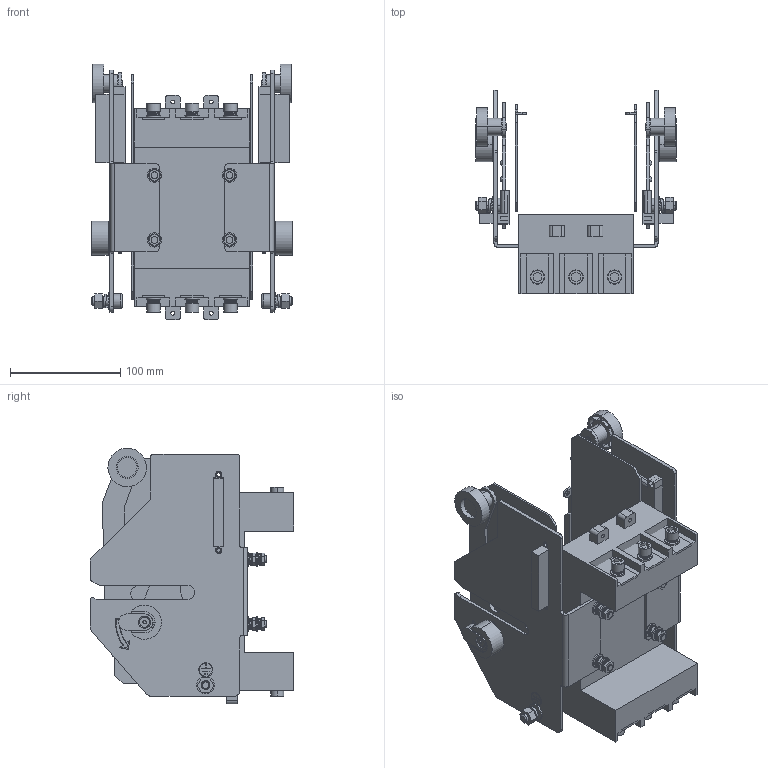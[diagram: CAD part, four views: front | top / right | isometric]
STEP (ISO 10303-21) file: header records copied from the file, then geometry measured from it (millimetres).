
FILE_DESCRIPTION (( 'STEP AP214' ), '1' );
FILE_NAME ('TGM1NE-DOB-250.stp', '2026-07-06T06:29:36', ( '' ), ( '' ), 'SwSTEP 2.0', 'SolidWorks 2024', '' );
FILE_SCHEMA (( 'AUTOMOTIVE_DESIGN' ));
Length unit declared in the file: millimetre
Products named in the file (4): TGM1NE-DOB-250; крепления 250.stp; TGM1NE-DOB-250 (1).stp; TGM1NE-DOB-250.stp
Assembly tree (3 placements, depth 3):
  TGM1NE-DOB-250
    TGM1NE-DOB-250.stp
      TGM1NE-DOB-250 (1).stp
      крепления 250.stp
Bounding box: 183.13 x 185 x 232.35 mm (x, y, z)
Volume: 932475.6 mm3; surface area: 405324.1 mm2
Topology: 81 solids, 99 shells, 1919 faces, 4714 edges, 3108 vertices
Faces by surface type: plane 1031, cylinder 594, bspline 170, torus 56, cone 48, sphere 20
Entity records: 67191 total; most frequent: CARTESIAN_POINT 20654, ORIENTED_EDGE 9368, DIRECTION 9342, EDGE_CURVE 4684, AXIS2_PLACEMENT_3D 3316, VERTEX_POINT 3098, VECTOR 2710, LINE 2710
